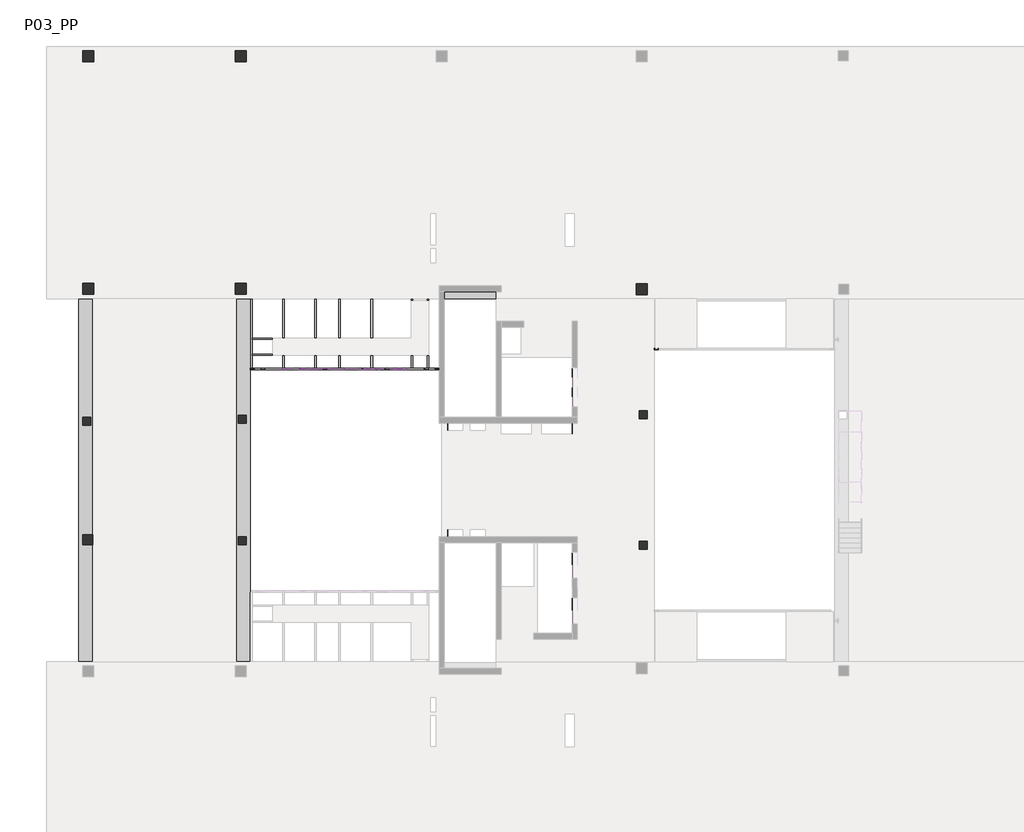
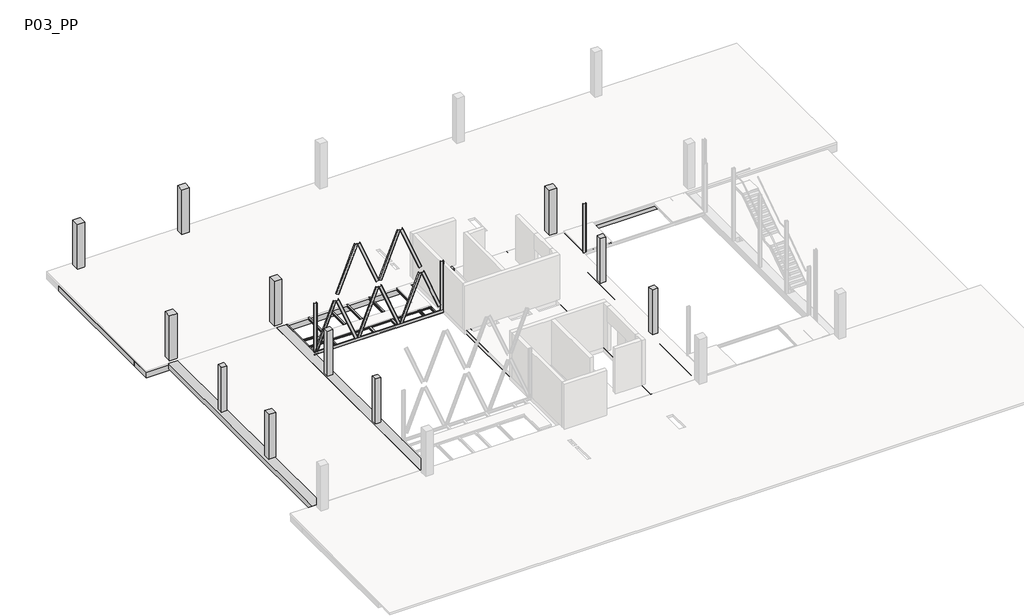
# One storey, part 3 of 4: 54 beams, 14 columns.
"""IFC4 building model written with IfcOpenShell, lengths in millimetres."""

from ifc_helpers import new_model, si_unit, frame, origin, place, context, project, spatial, polyline, outline, extrude, faceted_brep, transform, mapped, element, save
from components import ub_universal_beams_ipe_160x82_a4b44378, ub_universal_beams_ipe_160x82_3ea767f5, ub_universal_beams_ipe_200x100_c7fdf681, ub_universal_beams_ipe_200x100_cbb9be62, upn120x55_8ca40f5d, upn120x55_f8c29ef0, upn120x55_6f2391d9, upn120x55_f3862d68, upn120x55_dbb17e30, upn200x75_22e62ea1, upn200x75_5ddb06b6, upn200x75_15f8b11e, upn200x75_ab35ba71, upn200x75_df23aae5, upn200x75_7b6a578c, upn200x75_922ad74a, upn_200x75_1933780c

model = new_model("IFC4")

# Units and contexts
model_context = context("Model", 3, world=origin())
ifc_project = project(units=[si_unit("LENGTHUNIT", "METRE", prefix="MILLI")], contexts=[model_context])

# Site, building, storey
site = spatial("IfcSite", under=ifc_project)
building = spatial("IfcBuilding", under=site)
storey = spatial("IfcBuildingStorey", under=building, Name="P03_PP", Elevation=18660.0)

# Beams
placement = place(None, origin())
element("IfcBeam", 1, ObjectType="M_Concrete-Rectangular Beam : 1500 x 550mm", at=placement, inside=storey, context=model_context, shape_type="Brep", body=[
    faceted_brep([(-13390.3216429, 13539.4134441, 18660.0), (-10790.2146087, 13539.4134441, 18660.0), (-10790.2146087, 13864.8960677, 18660.0), (-13390.3216429, 13864.8960677, 18660.0), (5450.3958055, 15039.4134441, 18110.0), (4183.7291418, 15039.4134441, 18110.0), (3783.7291418, 15039.4134441, 18110.0), (2517.0624776, 15039.4134441, 18110.0), (2117.0624776, 15039.4134441, 18110.0), (850.3958139, 15039.4134441, 18110.0), (450.3958139, 15039.4134441, 18110.0), (-816.2708502, 15039.4134441, 18110.0), (-1216.2708502, 15039.4134441, 18110.0), (-2482.9375136, 15039.4134441, 18110.0), (-2882.9375136, 15039.4134441, 18110.0), (-4149.6041777, 15039.4134441, 18110.0), (-4549.6041777, 15039.4134441, 18110.0), (-5816.2708415, 15039.4134441, 18110.0), (-6216.2708415, 15039.4134441, 18110.0), (-7482.9375051, 15039.4134441, 18110.0), (-7882.9375051, 15039.4134441, 18110.0), (-9149.6041702, 15039.4134441, 18110.0), (-9549.6041702, 15039.4134441, 18110.0), (-10816.2708336, 15039.4134441, 18110.0), (-11216.2708336, 15039.4134441, 18110.0), (-12482.9374977, 15039.4134441, 18110.0), (-12882.9374977, 15039.4134441, 18110.0), (-14149.604161, 15039.4134441, 18110.0), (-14549.604161, 15039.4134441, 18110.0), (-15816.2708252, 15039.4134441, 18110.0), (-16216.2708252, 15039.4134441, 18110.0), (-17482.9374898, 15039.4134441, 18110.0), (-17882.9374898, 15039.4134441, 18110.0), (-19149.6041539, 15039.4134441, 18110.0), (-19549.6041539, 15039.4134441, 18110.0), (-20816.2708168, 15039.4134441, 18110.0), (-21216.2708168, 15039.4134441, 18110.0), (-22482.9374805, 15039.4134441, 18110.0), (-22882.9374805, 15039.4134441, 18110.0), (-24149.6041453, 15039.4134441, 18110.0), (-24549.6041453, 15039.4134441, 18110.0), (-25816.2708089, 15039.4134441, 18110.0), (-26216.2708089, 15039.4134441, 18110.0), (-27482.9374731, 15039.4134441, 18110.0), (-27882.9374731, 15039.4134441, 18110.0), (-29149.6041367, 15039.4134441, 18110.0), (-29549.6041367, 15039.4134441, 18110.0), (-30816.2708024, 15039.4134441, 18110.0), (-31216.2708024, 15039.4134441, 18110.0), (-32490.2931093, 15039.4134441, 18110.0), (-33190.2931093, 15039.4134441, 18110.0), (-33190.2931093, 15039.4134441, 18510.0), (-32490.2931093, 15039.4134441, 18510.0), (-31216.2708024, 15039.4134441, 18510.0), (-30816.2708024, 15039.4134441, 18510.0), (-29549.6041367, 15039.4134441, 18510.0), (-29149.6041367, 15039.4134441, 18510.0), (-27882.9374731, 15039.4134441, 18510.0), (-27482.9374731, 15039.4134441, 18510.0), (-26216.2708089, 15039.4134441, 18510.0), (-25816.2708089, 15039.4134441, 18510.0), (-24549.6041453, 15039.4134441, 18510.0), (-24149.6041453, 15039.4134441, 18510.0), (-22882.9374805, 15039.4134441, 18510.0), (-22482.9374805, 15039.4134441, 18510.0), (-21216.2708168, 15039.4134441, 18510.0), (-20816.2708168, 15039.4134441, 18510.0), (-19549.6041539, 15039.4134441, 18510.0), (-19149.6041539, 15039.4134441, 18510.0), (-17882.9374898, 15039.4134441, 18510.0), (-17482.9374898, 15039.4134441, 18510.0), (-16216.2708252, 15039.4134441, 18510.0), (-15816.2708252, 15039.4134441, 18510.0), (-14549.604161, 15039.4134441, 18510.0), (-14149.604161, 15039.4134441, 18510.0), (-12882.9374977, 15039.4134441, 18510.0), (-12482.9374977, 15039.4134441, 18510.0), (-11216.2708336, 15039.4134441, 18510.0), (-10816.2708336, 15039.4134441, 18510.0), (-9549.6041702, 15039.4134441, 18510.0), (-9149.6041702, 15039.4134441, 18510.0), (-7882.9375051, 15039.4134441, 18510.0), (-7482.9375051, 15039.4134441, 18510.0), (-6216.2708415, 15039.4134441, 18510.0), (-5816.2708415, 15039.4134441, 18510.0), (-4549.6041777, 15039.4134441, 18510.0), (-4149.6041777, 15039.4134441, 18510.0), (-2882.9375136, 15039.4134441, 18510.0), (-2482.9375136, 15039.4134441, 18510.0), (-1216.2708502, 15039.4134441, 18510.0), (-816.2708502, 15039.4134441, 18510.0), (450.3958139, 15039.4134441, 18510.0), (850.3958139, 15039.4134441, 18510.0), (2117.0624776, 15039.4134441, 18510.0), (2517.0624776, 15039.4134441, 18510.0), (3783.7291418, 15039.4134441, 18510.0), (4183.7291418, 15039.4134441, 18510.0), (5450.3958055, 15039.4134441, 18510.0), (-33190.2931093, 13539.4134441, 18110.0), (5450.3958055, 14339.4134389, 18110.0), (5450.3958055, 13539.4134441, 18110.0), (-13390.3216429, 13539.4134441, 18110.0), (-13390.3216429, 13864.8960687, 18110.0), (-10540.3248355, 13864.8960687, 18110.0), (-10540.3248355, 14164.8960687, 18110.0), (-13640.3216429, 14164.8960687, 18110.0), (-13640.3216429, 13539.4134441, 18110.0), (-3266.6337027, 13714.412495, 18110.0), (-3266.6337035, 14264.412495, 18110.0), (-3816.6337035, 14264.4124942, 18110.0), (-3816.6337027, 13714.4124942, 18110.0), (-30841.2250811, 13739.413749, 18110.0), (-30841.22508, 14289.413749, 18110.0), (-31391.22508, 14289.4137502, 18110.0), (-31391.2250811, 13739.4137502, 18110.0), (-23241.1836939, 13739.413793, 18110.0), (-23241.1836934, 14339.413793, 18110.0), (-23841.1836934, 14339.4137935, 18110.0), (-23841.1836939, 13739.4137935, 18110.0), (-13640.3216429, 13539.4134441, 18360.0), (-13390.3216429, 13539.4134441, 18360.0), (5450.3958055, 13539.4134441, 18510.0), (-10790.2146087, 13539.4134441, 18510.0), (-13390.3216429, 13539.4134441, 18510.0), (-33190.2931093, 13539.4134441, 18510.0), (-3266.6337027, 13714.412495, 18360.0), (-3266.6337035, 14264.412495, 18360.0), (-3816.6337027, 13714.4124942, 18360.0), (-3816.6337035, 14264.4124942, 18360.0), (-30841.2250811, 13739.413749, 18360.0), (-30841.22508, 14289.413749, 18360.0), (-31391.2250811, 13739.4137502, 18360.0), (-31391.22508, 14289.4137502, 18360.0), (-23241.1836939, 13739.413793, 18360.0), (-23241.1836934, 14339.413793, 18360.0), (-23841.1836939, 13739.4137935, 18360.0), (-23841.1836934, 14339.4137935, 18360.0), (-10540.3248355, 14164.8960687, 18360.0), (-13640.3216429, 14164.8960687, 18360.0), (-10540.3248355, 13864.8960687, 18360.0), (-13390.3216429, 13864.8960687, 18360.0), (-13640.3216429, 13864.8960687, 18360.0), (5450.3958055, 14339.4134389, 18510.0), (-10790.2146087, 13864.8960677, 18510.0), (-13390.3216429, 13864.8960677, 18510.0)], [[[0, 1, 2, 3]], [[4, 5, 6, 7, 8, 9, 10, 11, 12, 13, 14, 15, 16, 17, 18, 19, 20, 21, 22, 23, 24, 25, 26, 27, 28, 29, 30, 31, 32, 33, 34, 35, 36, 37, 38, 39, 40, 41, 42, 43, 44, 45, 46, 47, 48, 49, 50, 51, 52, 53, 54, 55, 56, 57, 58, 59, 60, 61, 62, 63, 64, 65, 66, 67, 68, 69, 70, 71, 72, 73, 74, 75, 76, 77, 78, 79, 80, 81, 82, 83, 84, 85, 86, 87, 88, 89, 90, 91, 92, 93, 94, 95, 96, 97]], [[98, 50, 49, 48, 47, 46, 45, 44, 43, 42, 41, 40, 39, 38, 37, 36, 35, 34, 33, 32, 31, 30, 29, 28, 27, 26, 25, 24, 23, 22, 21, 20, 19, 18, 17, 16, 15, 14, 13, 12, 11, 10, 9, 8, 7, 6, 5, 4, 99, 100, 101, 102, 103, 104, 105, 106], [107, 108, 109, 110], [111, 112, 113, 114], [115, 116, 117, 118]], [[106, 119, 120, 101, 100, 121, 122, 1, 0, 123, 124, 98]], [[50, 98, 124, 51]], [[125, 126, 108, 107]], [[127, 125, 107, 110]], [[128, 127, 110, 109]], [[126, 128, 109, 108]], [[126, 125, 127, 128]], [[129, 130, 112, 111]], [[131, 129, 111, 114]], [[132, 131, 114, 113]], [[130, 132, 113, 112]], [[130, 129, 131, 132]], [[133, 134, 116, 115]], [[135, 133, 115, 118]], [[136, 135, 118, 117]], [[134, 136, 117, 116]], [[134, 133, 135, 136]], [[137, 138, 105, 104]], [[139, 103, 102, 140]], [[138, 137, 139, 140, 120, 119, 141]], [[139, 137, 104, 103]], [[105, 138, 141, 119, 106]], [[120, 140, 102, 101]], [[100, 99, 4, 97, 142, 121]], [[143, 122, 121, 142, 97, 96, 95, 94, 93, 92, 91, 90, 89, 88, 87, 86, 85, 84, 83, 82, 81, 80, 79, 78, 77, 76, 75, 74, 73, 72, 71, 70, 69, 68, 67, 66, 65, 64, 63, 62, 61, 60, 59, 58, 57, 56, 55, 54, 53, 52, 51, 124, 123, 144]], [[143, 144, 3, 2]], [[144, 123, 0, 3]], [[122, 143, 2, 1]]]),
])
element("IfcBeam", 2, ObjectType="M_Concrete-Rectangular Beam : 300 x 300mm", at=placement, inside=storey, context=model_context, shape_type="SweptSolid", body=[
    extrude(outline(polyline([(-13215.3216429, 1364.8960692), (-13515.3216429, 1364.8960692), (-13515.3216429, 7614.8960673), (-13215.3216429, 7614.8960673), (-13215.3216429, 1364.8960692)])), frame((0.0, 0.0, 18360.0), z_axis=(0.0, 0.0, 1.0), x_axis=(1.0, 0.0, 0.0)), (0.0, 0.0, 1.0), 300.0),
])
element("IfcBeam", 3, ObjectType="M_Concrete-Rectangular Beam : 300 x 300mm", at=placement, inside=storey, context=model_context, shape_type="Brep", body=[
    faceted_brep([(-6715.3241677, 13539.4134441, 18660.0), (-7015.3241677, 13539.4134441, 18660.0), (-7015.3241677, -4560.586164, 18660.0), (-6715.3241677, -4560.5861639, 18660.0), (-7015.3241677, 13539.4134441, 18360.0), (-7015.3241677, -4610.5861498, 18360.0), (-7015.3241677, -4610.5861498, 18510.0), (-7015.3241677, -4560.586164, 18510.0), (-7015.3241677, 13539.4134441, 18510.0), (-6715.3241677, 13539.4134441, 18360.0), (-6715.3241677, -4610.5861498, 18360.0), (-6715.3241677, 13539.4134441, 18510.0), (-6715.3241677, -4560.5861639, 18510.0), (-6715.3241677, -4610.5861498, 18510.0)], [[[0, 1, 2, 3]], [[4, 5, 6, 7, 2, 1, 8]], [[4, 9, 10, 5]], [[10, 9, 11, 0, 3, 12, 13]], [[1, 0, 11, 9, 4, 8]], [[5, 10, 13, 6]], [[12, 7, 6, 13]], [[7, 12, 3, 2]]]),
])
element("IfcBeam", 4, ObjectType="M_Concrete-Rectangular Beam : 400 x 550mm", at=placement, inside=storey, context=model_context, shape_type="SweptSolid", body=[
    extrude(outline(polyline([(-31216.2708024, 24589.4144807), (-30816.2708024, 24589.4144807), (-30816.2708024, 15039.4134441), (-31216.2708024, 15039.4134441), (-31216.2708024, 24589.4144807)])), frame((0.0, 0.0, 18110.0), z_axis=(0.0, 0.0, 1.0), x_axis=(1.0, 0.0, 0.0)), (0.0, 0.0, 1.0), 400.0),
])
element("IfcBeam", 5, ObjectType="M_Concrete-Rectangular Beam : 400 x 550mm", at=placement, inside=storey, context=model_context, shape_type="SweptSolid", body=[
    extrude(outline(polyline([(-29549.6041367, 24589.4144807), (-29149.6041367, 24589.4144807), (-29149.6041367, 15039.4134441), (-29549.6041367, 15039.4134441), (-29549.6041367, 24589.4144807)])), frame((0.0, 0.0, 18110.0), z_axis=(0.0, 0.0, 1.0), x_axis=(1.0, 0.0, 0.0)), (0.0, 0.0, 1.0), 400.0),
])
element("IfcBeam", 6, ObjectType="M_Concrete-Rectangular Beam : 400 x 550mm", at=placement, inside=storey, context=model_context, shape_type="SweptSolid", body=[
    extrude(outline(polyline([(-27882.9374731, 24589.4144807), (-27482.9374731, 24589.4144807), (-27482.9374731, 15039.4134441), (-27882.9374731, 15039.4134441), (-27882.9374731, 24589.4144807)])), frame((0.0, 0.0, 18110.0), z_axis=(0.0, 0.0, 1.0), x_axis=(1.0, 0.0, 0.0)), (0.0, 0.0, 1.0), 400.0),
])
element("IfcBeam", 7, ObjectType="M_Concrete-Rectangular Beam : 400 x 550mm", at=placement, inside=storey, context=model_context, shape_type="SweptSolid", body=[
    extrude(outline(polyline([(-26216.2708089, 24589.4144807), (-25816.2708089, 24589.4144807), (-25816.2708089, 15039.4134441), (-26216.2708089, 15039.4134441), (-26216.2708089, 24589.4144807)])), frame((0.0, 0.0, 18110.0), z_axis=(0.0, 0.0, 1.0), x_axis=(1.0, 0.0, 0.0)), (0.0, 0.0, 1.0), 400.0),
])
element("IfcBeam", 8, ObjectType="M_Concrete-Rectangular Beam : 400 x 550mm", at=placement, inside=storey, context=model_context, shape_type="SweptSolid", body=[
    extrude(outline(polyline([(-24549.6041453, 24589.4144807), (-24149.6041453, 24589.4144807), (-24149.6041453, 15039.4134441), (-24549.6041453, 15039.4134441), (-24549.6041453, 24589.4144807)])), frame((0.0, 0.0, 18110.0), z_axis=(0.0, 0.0, 1.0), x_axis=(1.0, 0.0, 0.0)), (0.0, 0.0, 1.0), 400.0),
])
element("IfcBeam", 9, ObjectType="M_Concrete-Rectangular Beam : 400 x 550mm", at=placement, inside=storey, context=model_context, shape_type="SweptSolid", body=[
    extrude(outline(polyline([(-22882.9374805, 24589.4144807), (-22482.9374805, 24589.4144807), (-22482.9374805, 15039.4134441), (-22882.9374805, 15039.4134441), (-22882.9374805, 24589.4144807)])), frame((0.0, 0.0, 18110.0), z_axis=(0.0, 0.0, 1.0), x_axis=(1.0, 0.0, 0.0)), (0.0, 0.0, 1.0), 400.0),
])
element("IfcBeam", 10, ObjectType="M_Concrete-Rectangular Beam : 400 x 550mm", at=placement, inside=storey, context=model_context, shape_type="SweptSolid", body=[
    extrude(outline(polyline([(-21216.2708168, 24589.4144807), (-20816.2708168, 24589.4144807), (-20816.2708168, 15039.4134441), (-21216.2708168, 15039.4134441), (-21216.2708168, 24589.4144807)])), frame((0.0, 0.0, 18110.0), z_axis=(0.0, 0.0, 1.0), x_axis=(1.0, 0.0, 0.0)), (0.0, 0.0, 1.0), 400.0),
])
element("IfcBeam", 11, ObjectType="M_Concrete-Rectangular Beam : 400 x 550mm", at=placement, inside=storey, context=model_context, shape_type="SweptSolid", body=[
    extrude(outline(polyline([(-19549.6041539, 24589.4144807), (-19149.6041539, 24589.4144807), (-19149.6041539, 15039.4134441), (-19549.6041539, 15039.4134441), (-19549.6041539, 24589.4144807)])), frame((0.0, 0.0, 18110.0), z_axis=(0.0, 0.0, 1.0), x_axis=(1.0, 0.0, 0.0)), (0.0, 0.0, 1.0), 400.0),
])
element("IfcBeam", 12, ObjectType="M_Concrete-Rectangular Beam : 400 x 550mm", at=placement, inside=storey, context=model_context, shape_type="SweptSolid", body=[
    extrude(outline(polyline([(-17882.9374898, 24589.4144807), (-17482.9374898, 24589.4144807), (-17482.9374898, 15039.4134441), (-17882.9374898, 15039.4134441), (-17882.9374898, 24589.4144807)])), frame((0.0, 0.0, 18110.0), z_axis=(0.0, 0.0, 1.0), x_axis=(1.0, 0.0, 0.0)), (0.0, 0.0, 1.0), 400.0),
])
element("IfcBeam", 13, ObjectType="M_Concrete-Rectangular Beam : 400 x 550mm", at=placement, inside=storey, context=model_context, shape_type="SweptSolid", body=[
    extrude(outline(polyline([(-16216.2708252, 24589.4144807), (-15816.2708252, 24589.4144807), (-15816.2708252, 15039.4134441), (-16216.2708252, 15039.4134441), (-16216.2708252, 24589.4144807)])), frame((0.0, 0.0, 18110.0), z_axis=(0.0, 0.0, 1.0), x_axis=(1.0, 0.0, 0.0)), (0.0, 0.0, 1.0), 400.0),
])
element("IfcBeam", 14, ObjectType="M_Concrete-Rectangular Beam : 400 x 550mm", at=placement, inside=storey, context=model_context, shape_type="SweptSolid", body=[
    extrude(outline(polyline([(-14549.604161, 24589.4144807), (-14149.604161, 24589.4144807), (-14149.604161, 15039.4134441), (-14549.604161, 15039.4134441), (-14549.604161, 24589.4144807)])), frame((0.0, 0.0, 18110.0), z_axis=(0.0, 0.0, 1.0), x_axis=(1.0, 0.0, 0.0)), (0.0, 0.0, 1.0), 400.0),
])
element("IfcBeam", 15, ObjectType="M_Concrete-Rectangular Beam : 400 x 550mm", at=placement, inside=storey, context=model_context, shape_type="SweptSolid", body=[
    extrude(outline(polyline([(-12882.9374977, 24589.4144807), (-12482.9374977, 24589.4144807), (-12482.9374977, 15039.4134441), (-12882.9374977, 15039.4134441), (-12882.9374977, 24589.4144807)])), frame((0.0, 0.0, 18110.0), z_axis=(0.0, 0.0, 1.0), x_axis=(1.0, 0.0, 0.0)), (0.0, 0.0, 1.0), 400.0),
])
element("IfcBeam", 16, ObjectType="M_Concrete-Rectangular Beam : 400 x 550mm", at=placement, inside=storey, context=model_context, shape_type="SweptSolid", body=[
    extrude(outline(polyline([(-11216.2708336, 24589.4144807), (-10816.2708336, 24589.4144807), (-10816.2708336, 15039.4134441), (-11216.2708336, 15039.4134441), (-11216.2708336, 24589.4144807)])), frame((0.0, 0.0, 18110.0), z_axis=(0.0, 0.0, 1.0), x_axis=(1.0, 0.0, 0.0)), (0.0, 0.0, 1.0), 400.0),
])
element("IfcBeam", 17, ObjectType="M_Concrete-Rectangular Beam : 700 x 400mm", at=placement, inside=storey, context=model_context, shape_type="Brep", body=[
    faceted_brep([(-30891.2267916, 13539.4134441, 18660.0), (-31591.2267916, 13539.4134441, 18660.0), (-31591.2267916, -4560.5861786, 18660.0), (-30891.2267916, -4560.5861782, 18660.0), (-31591.2267916, 13539.4134441, 18260.0), (-31591.2267916, -4610.5861498, 18260.0), (-31591.2267916, -4610.5861498, 18510.0), (-31591.2267916, -4560.5861786, 18510.0), (-31591.2267916, 13539.4134441, 18510.0), (-30891.2267916, 13539.4134441, 18260.0), (-30891.2267916, -4610.5861498, 18260.0), (-30941.2254254, 1289.2324921, 18260.0), (-30941.2254254, 1739.2324921, 18260.0), (-31391.2254254, 1739.2324921, 18260.0), (-31391.2254254, 1289.2324921, 18260.0), (-30941.2252523, 7189.2339908, 18260.0), (-30941.2252527, 7639.2339908, 18260.0), (-31391.2252527, 7639.2339905, 18260.0), (-31391.2252523, 7189.2339905, 18260.0), (-30891.2267916, 13539.4134441, 18510.0), (-30891.2267916, -4560.5861782, 18510.0), (-30891.2267916, -4610.5861498, 18510.0), (-30941.2254254, 1289.2324921, 18360.0), (-30941.2254254, 1739.2324921, 18360.0), (-31391.2254254, 1289.2324921, 18360.0), (-31391.2254254, 1739.2324921, 18360.0), (-30941.2252523, 7189.2339908, 18360.0), (-30941.2252527, 7639.2339908, 18360.0), (-31391.2252523, 7189.2339905, 18360.0), (-31391.2252527, 7639.2339905, 18360.0)], [[[0, 1, 2, 3]], [[4, 5, 6, 7, 2, 1, 8]], [[4, 9, 10, 5], [11, 12, 13, 14], [15, 16, 17, 18]], [[10, 9, 19, 0, 3, 20, 21]], [[22, 23, 12, 11]], [[24, 22, 11, 14]], [[25, 24, 14, 13]], [[23, 25, 13, 12]], [[23, 22, 24, 25]], [[26, 27, 16, 15]], [[28, 26, 15, 18]], [[29, 28, 18, 17]], [[27, 29, 17, 16]], [[27, 26, 28, 29]], [[1, 0, 19, 9, 4, 8]], [[5, 10, 21, 6]], [[20, 7, 6, 21]], [[7, 20, 3, 2]]]),
])
element("IfcBeam", 18, ObjectType="M_Concrete-Rectangular Beam : 700 x 400mm", at=placement, inside=storey, context=model_context, shape_type="Brep", body=[
    faceted_brep([(-23041.1819308, 13539.4134441, 18660.0), (-23741.1819308, 13539.4134441, 18660.0), (-23741.1819308, -4560.586174, 18660.0), (-23041.1819308, -4560.5861736, 18660.0), (-23741.1819308, 13539.4134441, 18260.0), (-23741.1819308, -4610.5861498, 18260.0), (-23741.1819308, -4610.5861498, 18510.0), (-23741.1819308, -4560.586174, 18510.0), (-23741.1819308, 13539.4134441, 18510.0), (-23041.1819308, 13539.4134441, 18260.0), (-23041.1819308, -4610.5861498, 18260.0), (-23241.1868518, 1214.413637, 18260.0), (-23241.1868521, 1664.413637, 18260.0), (-23691.1868521, 1664.4136367, 18260.0), (-23691.1868518, 1214.4136367, 18260.0), (-23241.1868576, 7314.4136309, 18260.0), (-23241.1868571, 7764.4136309, 18260.0), (-23691.1868571, 7764.4136315, 18260.0), (-23691.1868576, 7314.4136315, 18260.0), (-23041.1819308, 13539.4134441, 18510.0), (-23041.1819308, -4560.5861736, 18510.0), (-23041.1819308, -4610.5861498, 18510.0), (-23241.1868518, 1214.413637, 18360.0), (-23241.1868521, 1664.413637, 18360.0), (-23691.1868518, 1214.4136367, 18360.0), (-23691.1868521, 1664.4136367, 18360.0), (-23241.1868576, 7314.4136309, 18360.0), (-23241.1868571, 7764.4136309, 18360.0), (-23691.1868576, 7314.4136315, 18360.0), (-23691.1868571, 7764.4136315, 18360.0)], [[[0, 1, 2, 3]], [[4, 5, 6, 7, 2, 1, 8]], [[4, 9, 10, 5], [11, 12, 13, 14], [15, 16, 17, 18]], [[10, 9, 19, 0, 3, 20, 21]], [[22, 23, 12, 11]], [[24, 22, 11, 14]], [[25, 24, 14, 13]], [[23, 25, 13, 12]], [[23, 22, 24, 25]], [[26, 27, 16, 15]], [[28, 26, 15, 18]], [[29, 28, 18, 17]], [[27, 29, 17, 16]], [[27, 26, 28, 29]], [[1, 0, 19, 9, 4, 8]], [[5, 10, 21, 6]], [[20, 7, 6, 21]], [[7, 20, 3, 2]]]),
])
element("IfcBeam", 19, ObjectType="M_Concrete-Rectangular Beam : 700 x 550mm", at=placement, inside=storey, context=model_context, shape_type="SweptSolid", body=[
    extrude(outline(polyline([(-33190.2931093, 24589.4144807), (-32490.2931093, 24589.4144807), (-32490.2931093, 15039.4134441), (-33190.2931093, 15039.4134441), (-33190.2931093, 24589.4144807)])), frame((0.0, 0.0, 18110.0), z_axis=(0.0, 0.0, 1.0), x_axis=(1.0, 0.0, 0.0)), (0.0, 0.0, 1.0), 400.0),
])
element("IfcBeam", 20, ObjectType="M_Concrete-Rectangular Beam : 850 x 300mm", at=placement, inside=storey, context=model_context, shape_type="Brep", body=[
    faceted_brep([(-2913.6343046, 13539.4134441, 18660.0), (-3763.6343046, 13539.4134441, 18660.0), (-3763.6343046, -4560.5861621, 18660.0), (-2913.6343046, -4560.5861616, 18660.0), (-3763.6343046, 13539.4134441, 18360.0), (-3763.6343046, -4610.5861498, 18360.0), (-3763.6343046, -4610.5861498, 18510.0), (-3763.6343046, -4560.5861621, 18510.0), (-3763.6343046, 13539.4134441, 18510.0), (-2913.6343046, 13539.4134441, 18360.0), (-2913.6343046, -4610.5861498, 18360.0), (-3266.6336945, -4610.5861498, 18360.0), (-2913.6343046, 13539.4134441, 18510.0), (-2913.6343046, -4560.5861616, 18510.0), (-2913.6343046, -4610.5861498, 18510.0)], [[[0, 1, 2, 3]], [[4, 5, 6, 7, 2, 1, 8]], [[4, 9, 10, 11, 5]], [[10, 9, 12, 0, 3, 13, 14]], [[1, 0, 12, 9, 4, 8]], [[5, 11, 10, 14, 6]], [[13, 7, 6, 14]], [[7, 13, 3, 2]]]),
])
ub_universal_beams_ipe_160x82_shape = ub_universal_beams_ipe_160x82_a4b44378(model_context)
element("IfcBeam", 21, ObjectType="UB-Universal Beams : IPE 160x82", at=placement, inside=storey, context=model_context, shape_type="MappedRepresentation", body=[
    mapped(ub_universal_beams_ipe_160x82_shape, transform((-14190.4459331, 12171.9464504, 18580.0), x_axis=(0.0, -1.0, 0.0), y_axis=(1.0, 0.0, 0.0), z_axis=(0.0, 0.0, 1.0))),
])
element("IfcBeam", 22, ObjectType="UB-Universal Beams : IPE 160x82", at=placement, inside=storey, context=model_context, shape_type="MappedRepresentation", body=[
    mapped(ub_universal_beams_ipe_160x82_shape, transform((-14990.4459326, 12171.9464378, 18580.0), x_axis=(0.0, -1.0, 0.0), y_axis=(1.0, 0.0, 0.0), z_axis=(0.0, 0.0, 1.0))),
])
element("IfcBeam", 23, ObjectType="UB-Universal Beams : IPE 160x82", at=placement, inside=storey, context=model_context, shape_type="MappedRepresentation", body=[
    mapped(ub_universal_beams_ipe_160x82_shape, transform((-16990.4459316, 12171.9464061, 18580.0), x_axis=(0.0, -1.0, 0.0), y_axis=(1.0, 0.0, 0.0), z_axis=(0.0, 0.0, 1.0))),
])
element("IfcBeam", 24, ObjectType="UB-Universal Beams : IPE 160x82", at=placement, inside=storey, context=model_context, shape_type="MappedRepresentation", body=[
    mapped(ub_universal_beams_ipe_160x82_shape, transform((-18590.4459308, 12171.9463807, 18580.0), x_axis=(0.0, -1.0, 0.0), y_axis=(1.0, 0.0, 0.0), z_axis=(0.0, 0.0, 1.0))),
])
element("IfcBeam", 25, ObjectType="UB-Universal Beams : IPE 160x82", at=placement, inside=storey, context=model_context, shape_type="MappedRepresentation", body=[
    mapped(ub_universal_beams_ipe_160x82_shape, transform((-19790.4459314, 12171.9463617, 18580.0), x_axis=(0.0, -1.0, 0.0), y_axis=(1.0, 0.0, 0.0), z_axis=(0.0, 0.0, 1.0))),
])
element("IfcBeam", 26, ObjectType="UB-Universal Beams : IPE 160x82", at=placement, inside=storey, context=model_context, shape_type="MappedRepresentation", body=[
    mapped(ub_universal_beams_ipe_160x82_shape, transform((-21390.4459306, 12171.9463363, 18580.0), x_axis=(0.0, -1.0, 0.0), y_axis=(1.0, 0.0, 0.0), z_axis=(0.0, 0.0, 1.0))),
])
ub_universal_beams_ipe_160x82_2_shape = ub_universal_beams_ipe_160x82_3ea767f5(model_context)
element("IfcBeam", 27, ObjectType="UB-Universal Beams : IPE 160x82", at=placement, inside=storey, context=model_context, shape_type="MappedRepresentation", body=[
    mapped(ub_universal_beams_ipe_160x82_2_shape, transform((-22991.1860553, 12171.9463109, 18580.0), x_axis=(0.0, -1.0, 0.0), y_axis=(1.0, 0.0, 0.0), z_axis=(0.0, 0.0, 1.0))),
])
ub_universal_beams_ipe_200x100_shape = ub_universal_beams_ipe_200x100_c7fdf681(model_context)
element("IfcBeam", 28, ObjectType="UB-Universal Beams : IPE 200x100", at=placement, inside=storey, context=model_context, shape_type="MappedRepresentation", body=[
    mapped(ub_universal_beams_ipe_200x100_shape, transform((-861.4958562, 12277.4822831, 18560.0), x_axis=(0.0, -1.0, 0.0), y_axis=(1.0, 0.0, 0.0), z_axis=(0.0, 0.0, 1.0))),
])
element("IfcBeam", 29, ObjectType="UB-Universal Beams : IPE 200x100", at=placement, inside=storey, context=model_context, shape_type="MappedRepresentation", body=[
    mapped(ub_universal_beams_ipe_200x100_shape, transform((-1511.4958562, 12277.4822831, 18560.0), x_axis=(0.0, -1.0, 0.0), y_axis=(1.0, 0.0, 0.0), z_axis=(0.0, 0.0, 1.0))),
])
element("IfcBeam", 30, ObjectType="UB-Universal Beams : IPE 200x100", at=placement, inside=storey, context=model_context, shape_type="MappedRepresentation", body=[
    mapped(ub_universal_beams_ipe_200x100_shape, transform((-2161.4958562, 12277.4822831, 18560.0), x_axis=(0.0, -1.0, 0.0), y_axis=(1.0, 0.0, 0.0), z_axis=(0.0, 0.0, 1.0))),
])
ub_universal_beams_ipe_200x100_2_shape = ub_universal_beams_ipe_200x100_cbb9be62(model_context)
element("IfcBeam", 31, ObjectType="UB-Universal Beams : IPE 200x100", at=placement, inside=storey, context=model_context, shape_type="MappedRepresentation", body=[
    mapped(ub_universal_beams_ipe_200x100_2_shape, transform((-2811.4958562, 12272.0188226, 18560.0), x_axis=(0.0, -1.0, 0.0), y_axis=(1.0, 0.0, 0.0), z_axis=(0.0, 0.0, 1.0))),
])
upn120x55_shape = upn120x55_8ca40f5d(model_context)
element("IfcBeam", 32, ObjectType="M_MC Shapes : UPN120x55", at=placement, inside=storey, context=model_context, shape_type="MappedRepresentation", body=[
    mapped(upn120x55_shape, transform((-22165.4459321, 11551.9793105, 18600.0), x_axis=(0.9999999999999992, 4.0441290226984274e-08, 0.0), y_axis=(-4.0441290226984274e-08, 0.9999999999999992, 0.0), z_axis=(0.0, 0.0, 1.0))),
])
element("IfcBeam", 33, ObjectType="M_MC Shapes : UPN120x55", at=placement, inside=storey, context=model_context, shape_type="MappedRepresentation", body=[
    mapped(upn120x55_shape, transform((-22165.4459321, 10751.9793096, 18600.0), x_axis=(0.9999999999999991, 4.319865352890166e-08, 0.0), y_axis=(-4.319865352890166e-08, 0.9999999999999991, 0.0), z_axis=(0.0, 0.0, 1.0))),
])
upn120x55_2_shape = upn120x55_f8c29ef0(model_context)
element("IfcBeam", 34, ObjectType="M_MC Shapes : UPN120x55", at=placement, inside=storey, context=model_context, shape_type="MappedRepresentation", body=[
    mapped(upn120x55_2_shape, transform((-20590.445931, 10751.9793776, 18600.0), x_axis=(0.9999999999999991, 4.319865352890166e-08, 0.0), y_axis=(-4.319865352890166e-08, 0.9999999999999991, 0.0), z_axis=(0.0, 0.0, 1.0))),
])
element("IfcBeam", 35, ObjectType="M_MC Shapes : UPN120x55", at=placement, inside=storey, context=model_context, shape_type="MappedRepresentation", body=[
    mapped(upn120x55_2_shape, transform((-17790.4459312, 10751.9794985, 18600.0), x_axis=(0.9999999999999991, 4.319865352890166e-08, 0.0), y_axis=(-4.319865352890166e-08, 0.9999999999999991, 0.0), z_axis=(0.0, 0.0, 1.0))),
])
element("IfcBeam", 36, ObjectType="M_MC Shapes : UPN120x55", at=placement, inside=storey, context=model_context, shape_type="MappedRepresentation", body=[
    mapped(upn120x55_2_shape, transform((-20590.445931, 11551.9793742, 18600.0), x_axis=(0.9999999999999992, 4.0441290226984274e-08, 0.0), y_axis=(-4.0441290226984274e-08, 0.9999999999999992, 0.0), z_axis=(0.0, 0.0, 1.0))),
])
element("IfcBeam", 37, ObjectType="M_MC Shapes : UPN120x55", at=placement, inside=storey, context=model_context, shape_type="MappedRepresentation", body=[
    mapped(upn120x55_2_shape, transform((-17790.4459312, 11551.9794874, 18600.0), x_axis=(0.9999999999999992, 4.0441290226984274e-08, 0.0), y_axis=(-4.0441290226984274e-08, 0.9999999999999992, 0.0), z_axis=(0.0, 0.0, 1.0))),
])
upn120x55_3_shape = upn120x55_6f2391d9(model_context)
element("IfcBeam", 38, ObjectType="M_MC Shapes : UPN120x55", at=placement, inside=storey, context=model_context, shape_type="MappedRepresentation", body=[
    mapped(upn120x55_3_shape, transform((-19190.4459311, 10751.9794381, 18600.0), x_axis=(0.9999999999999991, 4.319865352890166e-08, 0.0), y_axis=(-4.319865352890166e-08, 0.9999999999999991, 0.0), z_axis=(0.0, 0.0, 1.0))),
])
element("IfcBeam", 39, ObjectType="M_MC Shapes : UPN120x55", at=placement, inside=storey, context=model_context, shape_type="MappedRepresentation", body=[
    mapped(upn120x55_3_shape, transform((-19190.4459311, 11551.9794308, 18600.0), x_axis=(0.9999999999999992, 4.0441290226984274e-08, 0.0), y_axis=(-4.0441290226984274e-08, 0.9999999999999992, 0.0), z_axis=(0.0, 0.0, 1.0))),
])
upn120x55_4_shape = upn120x55_f3862d68(model_context)
element("IfcBeam", 40, ObjectType="M_MC Shapes : UPN120x55", at=placement, inside=storey, context=model_context, shape_type="MappedRepresentation", body=[
    mapped(upn120x55_4_shape, transform((-15990.4459321, 10751.9795763, 18600.0), x_axis=(0.9999999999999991, 4.319865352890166e-08, 0.0), y_axis=(-4.319865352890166e-08, 0.9999999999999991, 0.0), z_axis=(0.0, 0.0, 1.0))),
])
element("IfcBeam", 41, ObjectType="M_MC Shapes : UPN120x55", at=placement, inside=storey, context=model_context, shape_type="MappedRepresentation", body=[
    mapped(upn120x55_4_shape, transform((-15990.4459321, 11551.9795602, 18600.0), x_axis=(0.9999999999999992, 4.0441290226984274e-08, 0.0), y_axis=(-4.0441290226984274e-08, 0.9999999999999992, 0.0), z_axis=(0.0, 0.0, 1.0))),
])
upn120x55_5_shape = upn120x55_dbb17e30(model_context)
element("IfcBeam", 42, ObjectType="M_MC Shapes : UPN120x55", at=placement, inside=storey, context=model_context, shape_type="MappedRepresentation", body=[
    mapped(upn120x55_5_shape, transform((-14590.4459328, 11551.9796168, 18600.0), x_axis=(0.9999999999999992, 4.0441290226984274e-08, 0.0), y_axis=(-4.0441290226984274e-08, 0.9999999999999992, 0.0), z_axis=(0.0, 0.0, 1.0))),
])
element("IfcBeam", 43, ObjectType="M_MC Shapes : UPN120x55", at=placement, inside=storey, context=model_context, shape_type="MappedRepresentation", body=[
    mapped(upn120x55_5_shape, transform((-14590.4459328, 10751.9796368, 18600.0), x_axis=(0.9999999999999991, 4.319865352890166e-08, 0.0), y_axis=(-4.319865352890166e-08, 0.9999999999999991, 0.0), z_axis=(0.0, 0.0, 1.0))),
])
upn200x75_shape = upn200x75_22e62ea1(model_context)
element("IfcBeam", 44, ObjectType="M_MC Shapes : UPN200x75", at=placement, inside=storey, context=model_context, shape_type="MappedRepresentation", body=[
    mapped(upn200x75_shape, transform((-14469.7052054, 10001.2791702, 20386.1409985), x_axis=(0.3712989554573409, 1.1791241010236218e-08, -0.9285133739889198), y_axis=(-3.175673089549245e-08, 0.9999999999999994, 0.0), z_axis=(0.9285133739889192, 2.948654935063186e-08, 0.371298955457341))),
])
upn200x75_2_shape = upn200x75_5ddb06b6(model_context)
element("IfcBeam", 45, ObjectType="M_MC Shapes : UPN200x75", at=placement, inside=storey, context=model_context, shape_type="MappedRepresentation", body=[
    mapped(upn200x75_2_shape, transform((-19116.0351339, 10001.2791698, 24222.9889375), x_axis=(-0.3751231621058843, 1.157656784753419e-08, 0.926974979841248), y_axis=(3.086070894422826e-08, 0.9999999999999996, 0.0), z_axis=(-0.926974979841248, 2.86071045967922e-08, -0.37512316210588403))),
])
element("IfcBeam", 46, ObjectType="M_MC Shapes : UPN200x75", at=placement, inside=storey, context=model_context, shape_type="MappedRepresentation", body=[
    mapped(upn200x75_2_shape, transform((-20664.5997567, 10001.2791698, 20397.0114841), x_axis=(0.37512312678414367, 1.1576565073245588e-08, -0.9269749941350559), y_axis=(-3.086070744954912e-08, 0.9999999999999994, 0.0), z_axis=(0.9269749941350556, 2.860710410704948e-08, 0.3751231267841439))),
])
upn200x75_3_shape = upn200x75_15f8b11e(model_context)
element("IfcBeam", 47, ObjectType="M_MC Shapes : UPN200x75", at=placement, inside=storey, context=model_context, shape_type="MappedRepresentation", body=[
    mapped(upn200x75_3_shape, transform((-22208.7675596, 10001.2791702, 20389.3990465), x_axis=(-0.3712989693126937, 1.179124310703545e-08, -0.9285133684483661), y_axis=(-3.175673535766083e-08, -0.9999999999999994, 0.0), z_axis=(-0.9285133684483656, 2.9486553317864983e-08, 0.3712989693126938))),
])
upn200x75_4_shape = upn200x75_ab35ba71(model_context)
element("IfcBeam", 48, ObjectType="M_MC Shapes : UPN200x75", at=placement, inside=storey, context=model_context, shape_type="MappedRepresentation", body=[
    mapped(upn200x75_4_shape, transform((-18453.2517869, 10001.2793219, 18560.0), x_axis=(0.9999999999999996, 3.175670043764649e-08, 0.0), y_axis=(-3.175670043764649e-08, 0.9999999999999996, 0.0), z_axis=(0.0, 0.0, 1.0))),
])
upn200x75_5_shape = upn200x75_df23aae5(model_context)
element("IfcBeam", 49, ObjectType="M_MC Shapes : UPN200x75", at=placement, inside=storey, context=model_context, shape_type="MappedRepresentation", body=[
    mapped(upn200x75_5_shape, transform((-20664.5997567, 10001.2791698, 24222.9887644), x_axis=(0.37512312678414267, 1.1576565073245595e-08, 0.9269749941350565), y_axis=(3.086071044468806e-08, -0.9999999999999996, 0.0), z_axis=(0.926974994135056, 2.860710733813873e-08, -0.37512312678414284))),
])
element("IfcBeam", 50, ObjectType="M_MC Shapes : UPN200x75", at=placement, inside=storey, context=model_context, shape_type="MappedRepresentation", body=[
    mapped(upn200x75_5_shape, transform((-19116.0351339, 10001.2791698, 20397.0113111), x_axis=(-0.3751231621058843, 1.157656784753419e-08, -0.926974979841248), y_axis=(-3.0860711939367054e-08, -0.9999999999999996, 0.0), z_axis=(-0.926974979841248, 2.8607107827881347e-08, 0.37512316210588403))),
])
upn200x75_6_shape = upn200x75_7b6a578c(model_context)
element("IfcBeam", 51, ObjectType="M_MC Shapes : UPN200x75", at=placement, inside=storey, context=model_context, shape_type="MappedRepresentation", body=[
    mapped(upn200x75_6_shape, transform((-16015.3971261, 10001.2791698, 24224.0694042), x_axis=(-0.375016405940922, 1.1573274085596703e-08, 0.9270181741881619), y_axis=(3.086071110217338e-08, 0.9999999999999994, 0.0), z_axis=(-0.9270181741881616, 2.8608439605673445e-08, -0.3750164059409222))),
])
upn200x75_7_shape = upn200x75_922ad74a(model_context)
element("IfcBeam", 52, ObjectType="M_MC Shapes : UPN200x75", at=placement, inside=storey, context=model_context, shape_type="MappedRepresentation", body=[
    mapped(upn200x75_7_shape, transform((-16015.3971259, 10001.2791698, 20395.9308444), x_axis=(-0.3750164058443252, 1.157327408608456e-08, -0.9270181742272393), y_axis=(-3.0860714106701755e-08, -0.9999999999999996, 0.0), z_axis=(-0.927018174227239, 2.8608442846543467e-08, 0.37501640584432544))),
])
element("IfcBeam", 53, ObjectType="M_MC Shapes : UPN200x75", at=placement, inside=storey, context=model_context, shape_type="MappedRepresentation", body=[
    mapped(upn200x75_7_shape, transform((-17563.519136, 10001.2791698, 24224.0694517), x_axis=(0.3750164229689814, 1.1573272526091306e-08, 0.9270181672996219), y_axis=(3.086071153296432e-08, -0.9999999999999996, 0.0), z_axis=(0.9270181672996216, 2.8608440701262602e-08, -0.37501642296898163))),
])
element("IfcBeam", 54, ObjectType="M_MC Shapes : UPN200x75", at=placement, inside=storey, context=model_context, shape_type="MappedRepresentation", body=[
    mapped(upn200x75_6_shape, transform((-17563.5191358, 10001.2791698, 20395.9307969), x_axis=(0.37501642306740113, 1.1573272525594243e-08, -0.9270181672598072), y_axis=(-3.0860708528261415e-08, 0.9999999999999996, 0.0), z_axis=(0.9270181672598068, 2.8608437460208e-08, 0.3750164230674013))),
])

# Columns
element("IfcColumn", 55, ObjectType="Concrete-Rectangular-Column : Pilar_Rectangular-Formigo-400x400", at=placement, inside=storey, context=model_context, shape_type="SweptSolid", body=[
    extrude(outline(polyline([(-3266.6336932, 1439.6019873), (-3266.633693, 1039.6019873), (-3666.633693, 1039.6019871), (-3666.6336932, 1439.6019871), (-3266.6336932, 1439.6019873)])), frame((0.0, 0.0, 18660.0), z_axis=(0.0, 0.0, 1.0), x_axis=(1.0, 0.0, 0.0)), (0.0, 0.0, 1.0), 3450.0),
])
element("IfcColumn", 56, ObjectType="Concrete-Rectangular-Column : Pilar_Rectangular-Formigo-400x400", at=placement, inside=storey, context=model_context, shape_type="SweptSolid", body=[
    extrude(outline(polyline([(-3266.6337003, 7939.6019872), (-3266.6337, 7539.6019872), (-3666.6337, 7539.6019869), (-3666.6337003, 7939.6019869), (-3266.6337003, 7939.6019872)])), frame((0.0, 0.0, 18660.0), z_axis=(0.0, 0.0, 1.0), x_axis=(1.0, 0.0, 0.0)), (0.0, 0.0, 1.0), 3450.0),
])
element("IfcColumn", 57, ObjectType="Concrete-Rectangular-Column : Pilar_Rectangular-Formigo-550x550", at=placement, inside=storey, context=model_context, shape_type="Brep", body=[
    faceted_brep([(-3266.6337035, 14264.412495, 18660.0), (-3266.6337027, 13714.412495, 18660.0), (-3816.6337027, 13714.4124942, 18660.0), (-3816.6337035, 14264.4124942, 18660.0), (-3266.6337035, 14264.412495, 22110.0), (-3266.6337027, 13714.412495, 22110.0), (-3266.6337027, 13714.412495, 21860.0), (-3266.6337035, 14264.412495, 21710.0), (-3266.6337035, 14264.412495, 21860.0), (-3816.6337027, 13714.4124942, 22110.0), (-3816.6337027, 13714.4124942, 21860.0), (-3816.6337035, 14264.4124942, 22110.0), (-3816.6337035, 14264.4124942, 21860.0)], [[[0, 1, 2, 3]], [[4, 5, 6, 1, 0, 7, 8]], [[5, 9, 10, 2, 1, 6]], [[9, 11, 12, 3, 2, 10]], [[11, 4, 8, 7, 0, 3, 12]], [[4, 11, 9, 5]]]),
])
element("IfcColumn", 58, ObjectType="Concrete-Rectangular-Column : Pilar_Rectangular-Formigo-400x400", at=placement, inside=storey, context=model_context, shape_type="SweptSolid", body=[
    extrude(outline(polyline([(-23241.1836382, 1264.4124307), (-23641.1836382, 1264.4124299), (-23641.183639, 1664.4124299), (-23241.183639, 1664.4124307), (-23241.1836382, 1264.4124307)])), frame((0.0, 0.0, 18660.0), z_axis=(0.0, 0.0, 1.0), x_axis=(1.0, 0.0, 0.0)), (0.0, 0.0, 1.0), 3450.0),
])
element("IfcColumn", 59, ObjectType="Concrete-Rectangular-Column : Pilar_Rectangular-Formigo-400x400", at=placement, inside=storey, context=model_context, shape_type="SweptSolid", body=[
    extrude(outline(polyline([(-23241.1836497, 7714.4124394), (-23241.1836455, 7314.4124394), (-23641.1836455, 7314.4124352), (-23641.1836497, 7714.4124352), (-23241.1836497, 7714.4124394)])), frame((0.0, 0.0, 18660.0), z_axis=(0.0, 0.0, 1.0), x_axis=(1.0, 0.0, 0.0)), (0.0, 0.0, 1.0), 3450.0),
])
element("IfcColumn", 60, ObjectType="Concrete-Rectangular-Column : Pilar_Rectangular-Formigo-550x550", at=placement, inside=storey, context=model_context, shape_type="Brep", body=[
    faceted_brep([(-23241.1836604, 14289.4137599, 18660.0), (-23241.1836608, 13739.4137599, 18660.0), (-23791.1836608, 13739.4137604, 18660.0), (-23791.1836604, 14289.4137604, 18660.0), (-23241.1836604, 14289.4137599, 22110.0), (-23241.1836608, 13739.4137599, 22110.0), (-23241.1836608, 13739.4137599, 21860.0), (-23241.1836604, 14289.4137599, 21860.0), (-23791.1836608, 13739.4137604, 22110.0), (-23791.1836608, 13739.4137604, 21860.0), (-23791.1836604, 14289.4137604, 22110.0), (-23791.1836604, 14289.4137604, 21860.0)], [[[0, 1, 2, 3]], [[4, 5, 6, 1, 0, 7]], [[5, 8, 9, 2, 1, 6]], [[8, 10, 11, 3, 2, 9]], [[10, 4, 7, 0, 3, 11]], [[4, 10, 8, 5]]]),
])
element("IfcColumn", 61, ObjectType="Concrete-Rectangular-Column : Pilar_Rectangular-Formigo-550x550", at=placement, inside=storey, context=model_context, shape_type="Brep", body=[
    faceted_brep([(-23241.1831663, 25889.4135766, 18660.0), (-23241.1831655, 25339.4135766, 18660.0), (-23791.1831655, 25339.4135759, 18660.0), (-23791.1831663, 25889.4135759, 18660.0), (-23241.1831663, 25889.4135766, 22110.0), (-23241.1831655, 25339.4135766, 22110.0), (-23241.1831655, 25339.4135766, 21860.0), (-23241.1831663, 25889.4135766, 21860.0), (-23791.1831655, 25339.4135759, 22110.0), (-23791.1831655, 25339.4135759, 21860.0), (-23791.1831663, 25889.4135759, 22110.0), (-23791.1831663, 25889.4135759, 21860.0)], [[[0, 1, 2, 3]], [[4, 5, 6, 1, 0, 7]], [[5, 8, 9, 2, 1, 6]], [[8, 10, 11, 3, 2, 9]], [[10, 4, 7, 0, 3, 11]], [[4, 10, 8, 5]]]),
])
element("IfcColumn", 62, ObjectType="Concrete-Rectangular-Column : Pilar_Rectangular-Formigo-500x500", at=placement, inside=storey, context=model_context, shape_type="Brep", body=[
    faceted_brep([(-30891.2254304, 1764.2324928, 18660.0), (-30891.2254297, 1264.2324928, 18660.0), (-31391.2254297, 1264.2324921, 18660.0), (-31391.2254304, 1764.2324921, 18660.0), (-30891.2254304, 1764.2324928, 22110.0), (-30891.2254297, 1264.2324928, 22110.0), (-31391.2254297, 1264.2324921, 22110.0), (-31391.2254297, 1264.2324921, 22010.0), (-31391.2254298, 1314.2136417, 22110.0), (-31391.2254304, 1714.2136417, 22110.0), (-31391.2254304, 1764.2324921, 22110.0), (-31391.2254304, 1764.2324921, 22010.0)], [[[0, 1, 2, 3]], [[4, 5, 1, 0]], [[5, 6, 7, 2, 1]], [[6, 8, 9, 10, 11, 3, 2, 7]], [[10, 4, 0, 3, 11]], [[4, 10, 9, 8, 6, 5]]]),
])
element("IfcColumn", 63, ObjectType="Concrete-Rectangular-Column : Pilar_Rectangular-Formigo-400x400", at=placement, inside=storey, context=model_context, shape_type="SweptSolid", body=[
    extrude(outline(polyline([(-30991.2252652, 7614.2339908), (-30991.225265, 7214.2339908), (-31391.225265, 7214.2339905), (-31391.2252652, 7614.2339905), (-30991.2252652, 7614.2339908)])), frame((0.0, 0.0, 18660.0), z_axis=(0.0, 0.0, 1.0), x_axis=(1.0, 0.0, 0.0)), (0.0, 0.0, 1.0), 3450.0),
])
element("IfcColumn", 64, ObjectType="Concrete-Rectangular-Column : Pilar_Rectangular-Formigo-550x550", at=placement, inside=storey, context=model_context, shape_type="Brep", body=[
    faceted_brep([(-30841.22508, 14289.413749, 18660.0), (-30841.2250811, 13739.413749, 18660.0), (-31391.2250811, 13739.4137502, 18660.0), (-31391.22508, 14289.4137502, 18660.0), (-30841.22508, 14289.413749, 22110.0), (-30841.2250811, 13739.413749, 22110.0), (-30841.2250811, 13739.413749, 21860.0), (-30841.22508, 14289.413749, 21860.0), (-31391.2250811, 13739.4137502, 22110.0), (-31391.2250811, 13739.4137502, 21860.0), (-31391.22508, 14289.4137502, 22110.0), (-31391.22508, 14289.4137502, 21860.0)], [[[0, 1, 2, 3]], [[4, 5, 6, 1, 0, 7]], [[5, 8, 9, 2, 1, 6]], [[8, 10, 11, 3, 2, 9]], [[10, 4, 7, 0, 3, 11]], [[4, 10, 8, 5]]]),
])
element("IfcColumn", 65, ObjectType="Concrete-Rectangular-Column : Pilar_Rectangular-Formigo-550x550", at=placement, inside=storey, context=model_context, shape_type="Brep", body=[
    faceted_brep([(-30841.2187544, 25889.4135456, 18660.0), (-30841.2187551, 25339.4135456, 18660.0), (-31391.2187551, 25339.4135463, 18660.0), (-31391.2187544, 25889.4135463, 18660.0), (-30841.2187544, 25889.4135456, 22110.0), (-30841.2187551, 25339.4135456, 22110.0), (-30841.2187551, 25339.4135456, 21860.0), (-30841.2187544, 25889.4135456, 21860.0), (-31391.2187551, 25339.4135463, 22110.0), (-31391.2187551, 25339.4135463, 21860.0), (-31391.2187544, 25889.4135463, 22110.0), (-31391.2187544, 25889.4135463, 21860.0)], [[[0, 1, 2, 3]], [[4, 5, 6, 1, 0, 7]], [[5, 8, 9, 2, 1, 6]], [[8, 10, 11, 3, 2, 9]], [[10, 4, 7, 0, 3, 11]], [[4, 10, 8, 5]]]),
])
upn_200x75_shape = upn_200x75_1933780c(model_context)
element("IfcColumn", 66, ObjectType="M_MC Shapes-Column : UPN 200x75", at=placement, inside=storey, context=model_context, shape_type="MappedRepresentation", body=[
    mapped(upn_200x75_shape, transform((-13740.321643, 10016.7789198, 0.0), x_axis=(3.1229579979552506e-08, 0.9999999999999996, 0.0), y_axis=(-0.9999999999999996, 3.1229579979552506e-08, 0.0), z_axis=(0.0, 0.0, 1.0))),
])
element("IfcColumn", 67, ObjectType="M_MC Shapes-Column : UPN 200x75", at=placement, inside=storey, context=model_context, shape_type="MappedRepresentation", body=[
    mapped(upn_200x75_shape, transform((-22940.3175218, 10016.7789198, 0.0), x_axis=(3.1229579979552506e-08, 0.9999999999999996, 0.0), y_axis=(-0.9999999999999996, 3.1229579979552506e-08, 0.0), z_axis=(0.0, 0.0, 1.0))),
])
element("IfcColumn", 68, ObjectType="M_MC Shapes-Column : UPN 200x75", at=placement, inside=storey, context=model_context, shape_type="MappedRepresentation", body=[
    mapped(upn_200x75_shape, transform((-2813.6343975, 11006.0236936, 0.0), x_axis=(3.1229579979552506e-08, 0.9999999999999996, 0.0), y_axis=(-0.9999999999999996, 3.1229579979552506e-08, 0.0), z_axis=(0.0, 0.0, 1.0))),
])

save(model, "model.ifc")
